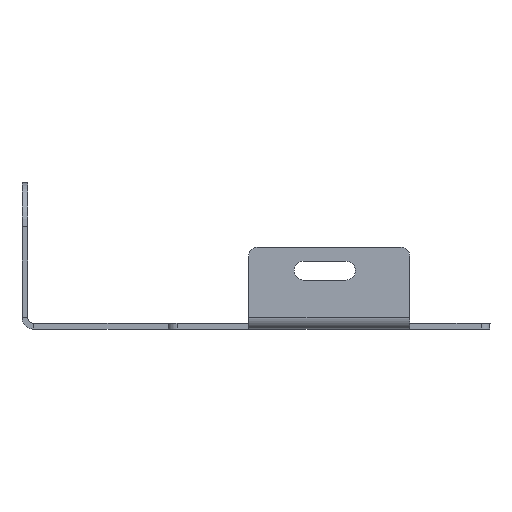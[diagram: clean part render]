
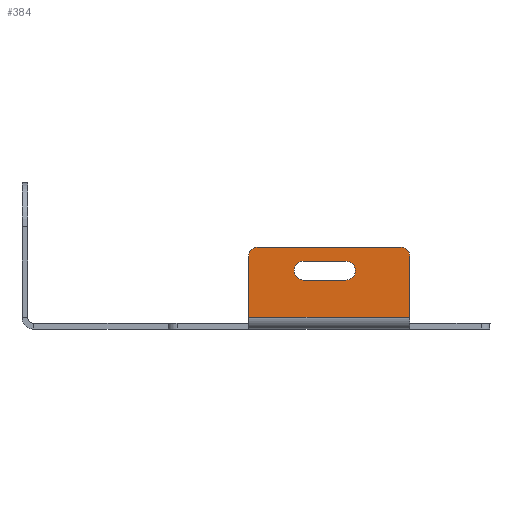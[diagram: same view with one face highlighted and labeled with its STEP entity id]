
A CAD part, left-side view. The second image highlights one B-rep face of the part: STEP entity #384.
In plain terms, the highlighted planar face has unit normal (-1, 0, 0).
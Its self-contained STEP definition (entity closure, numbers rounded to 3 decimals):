
#49 = DIRECTION ( 'NONE',  ( 0., 0., 1. ) ) ;
#64 = DIRECTION ( 'NONE',  ( 0., 1., 0. ) ) ;
#77 = ORIENTED_EDGE ( 'NONE', *, *, #1394, .F. ) ;
#79 = DIRECTION ( 'NONE',  ( 0., 1., 0. ) ) ;
#106 = VERTEX_POINT ( 'NONE', #1588 ) ;
#142 = CARTESIAN_POINT ( 'NONE',  ( -203.5, -5.75, 14.75 ) ) ;
#147 = ORIENTED_EDGE ( 'NONE', *, *, #1489, .F. ) ;
#155 = ORIENTED_EDGE ( 'NONE', *, *, #670, .F. ) ;
#176 = CARTESIAN_POINT ( 'NONE',  ( -203.5, -24.5, 26. ) ) ;
#178 = FACE_BOUND ( 'NONE', #3137, .T. ) ;
#199 = DIRECTION ( 'NONE',  ( -1., 0., 0. ) ) ;
#265 = VERTEX_POINT ( 'NONE', #1476 ) ;
#302 = AXIS2_PLACEMENT_3D ( 'NONE', #1499, #2497, #1770 ) ;
#321 = AXIS2_PLACEMENT_3D ( 'NONE', #2094, #577, #818 ) ;
#350 = CARTESIAN_POINT ( 'NONE',  ( -203.5, -27.5, 0. ) ) ;
#362 = EDGE_CURVE ( 'NONE', #1139, #2600, #3194, .T. ) ;
#370 = VERTEX_POINT ( 'NONE', #142 ) ;
#384 = ADVANCED_FACE ( 'NONE', ( #178, #2934 ), #3233, .T. ) ;
#389 = CARTESIAN_POINT ( 'NONE',  ( -203.5, 0., 2. ) ) ;
#515 = VECTOR ( 'NONE', #2334, 1000. ) ;
#518 = ORIENTED_EDGE ( 'NONE', *, *, #1687, .T. ) ;
#555 = LINE ( 'NONE', #1286, #2517 ) ;
#577 = DIRECTION ( 'NONE',  ( -1., 0., 0. ) ) ;
#670 = EDGE_CURVE ( 'NONE', #1365, #992, #1593, .T. ) ;
#797 = AXIS2_PLACEMENT_3D ( 'NONE', #1160, #1415, #2155 ) ;
#818 = DIRECTION ( 'NONE',  ( 0., 0., 1. ) ) ;
#831 = DIRECTION ( 'NONE',  ( 0., -1., 0. ) ) ;
#953 = VECTOR ( 'NONE', #831, 1000. ) ;
#965 = CARTESIAN_POINT ( 'NONE',  ( -203.5, -27.5, 2. ) ) ;
#992 = VERTEX_POINT ( 'NONE', #965 ) ;
#1049 = EDGE_CURVE ( 'NONE', #106, #992, #1564, .T. ) ;
#1050 = ORIENTED_EDGE ( 'NONE', *, *, #2736, .F. ) ;
#1112 = CIRCLE ( 'NONE', #3163, 3.25 ) ;
#1139 = VERTEX_POINT ( 'NONE', #2576 ) ;
#1159 = ORIENTED_EDGE ( 'NONE', *, *, #2363, .F. ) ;
#1160 = CARTESIAN_POINT ( 'NONE',  ( -203.5, 0., 0. ) ) ;
#1185 = DIRECTION ( 'NONE',  ( 0., 0., 1. ) ) ;
#1210 = VECTOR ( 'NONE', #64, 1000. ) ;
#1232 = EDGE_CURVE ( 'NONE', #1139, #1313, #2970, .T. ) ;
#1286 = CARTESIAN_POINT ( 'NONE',  ( -203.5, 27.5, 26. ) ) ;
#1300 = CARTESIAN_POINT ( 'NONE',  ( -203.5, -5.75, 14.75 ) ) ;
#1313 = VERTEX_POINT ( 'NONE', #176 ) ;
#1360 = ORIENTED_EDGE ( 'NONE', *, *, #1232, .F. ) ;
#1365 = VERTEX_POINT ( 'NONE', #2820 ) ;
#1382 = AXIS2_PLACEMENT_3D ( 'NONE', #2179, #2686, #3184 ) ;
#1388 = VERTEX_POINT ( 'NONE', #2013 ) ;
#1394 = EDGE_CURVE ( 'NONE', #106, #2600, #555, .T. ) ;
#1408 = ORIENTED_EDGE ( 'NONE', *, *, #362, .T. ) ;
#1415 = DIRECTION ( 'NONE',  ( -1., 0., 0. ) ) ;
#1476 = CARTESIAN_POINT ( 'NONE',  ( -203.5, 8.75, 14.75 ) ) ;
#1489 = EDGE_CURVE ( 'NONE', #2356, #1388, #2058, .T. ) ;
#1499 = CARTESIAN_POINT ( 'NONE',  ( -203.5, 24.5, 23. ) ) ;
#1564 = LINE ( 'NONE', #389, #953 ) ;
#1588 = CARTESIAN_POINT ( 'NONE',  ( -203.5, 27.5, 2. ) ) ;
#1593 = LINE ( 'NONE', #350, #515 ) ;
#1599 = CARTESIAN_POINT ( 'NONE',  ( -203.5, 27.5, 23. ) ) ;
#1687 = EDGE_CURVE ( 'NONE', #370, #265, #2806, .T. ) ;
#1710 = CARTESIAN_POINT ( 'NONE',  ( -203.5, -27.5, 26. ) ) ;
#1770 = DIRECTION ( 'NONE',  ( 0., 0., 1. ) ) ;
#1808 = CARTESIAN_POINT ( 'NONE',  ( -203.5, -5.75, 21.25 ) ) ;
#1831 = VECTOR ( 'NONE', #79, 1000. ) ;
#1859 = ORIENTED_EDGE ( 'NONE', *, *, #2047, .T. ) ;
#1887 = VECTOR ( 'NONE', #3230, 1000. ) ;
#1894 = EDGE_LOOP ( 'NONE', ( #1360, #1408, #77, #3053, #155, #1859 ) ) ;
#2013 = CARTESIAN_POINT ( 'NONE',  ( -203.5, 8.75, 21.25 ) ) ;
#2047 = EDGE_CURVE ( 'NONE', #1365, #1313, #3018, .T. ) ;
#2058 = LINE ( 'NONE', #1808, #1831 ) ;
#2094 = CARTESIAN_POINT ( 'NONE',  ( -203.5, -24.5, 23. ) ) ;
#2149 = CARTESIAN_POINT ( 'NONE',  ( -203.5, 8.75, 18. ) ) ;
#2155 = DIRECTION ( 'NONE',  ( 0., 0., 1. ) ) ;
#2179 = CARTESIAN_POINT ( 'NONE',  ( -203.5, -5.75, 18. ) ) ;
#2334 = DIRECTION ( 'NONE',  ( 0., 0., -1. ) ) ;
#2356 = VERTEX_POINT ( 'NONE', #3191 ) ;
#2363 = EDGE_CURVE ( 'NONE', #1388, #265, #1112, .T. ) ;
#2478 = CIRCLE ( 'NONE', #1382, 3.25 ) ;
#2497 = DIRECTION ( 'NONE',  ( -1., 0., 0. ) ) ;
#2517 = VECTOR ( 'NONE', #49, 1000. ) ;
#2576 = CARTESIAN_POINT ( 'NONE',  ( -203.5, 24.5, 26. ) ) ;
#2600 = VERTEX_POINT ( 'NONE', #1599 ) ;
#2686 = DIRECTION ( 'NONE',  ( -1., 0., 0. ) ) ;
#2736 = EDGE_CURVE ( 'NONE', #370, #2356, #2478, .T. ) ;
#2806 = LINE ( 'NONE', #1300, #1210 ) ;
#2820 = CARTESIAN_POINT ( 'NONE',  ( -203.5, -27.5, 23. ) ) ;
#2934 = FACE_OUTER_BOUND ( 'NONE', #1894, .T. ) ;
#2970 = LINE ( 'NONE', #1710, #1887 ) ;
#3018 = CIRCLE ( 'NONE', #321, 3. ) ;
#3053 = ORIENTED_EDGE ( 'NONE', *, *, #1049, .T. ) ;
#3137 = EDGE_LOOP ( 'NONE', ( #518, #1159, #147, #1050 ) ) ;
#3163 = AXIS2_PLACEMENT_3D ( 'NONE', #2149, #199, #1185 ) ;
#3184 = DIRECTION ( 'NONE',  ( 0., 0., 1. ) ) ;
#3191 = CARTESIAN_POINT ( 'NONE',  ( -203.5, -5.75, 21.25 ) ) ;
#3194 = CIRCLE ( 'NONE', #302, 3. ) ;
#3230 = DIRECTION ( 'NONE',  ( 0., -1., 0. ) ) ;
#3233 = PLANE ( 'NONE',  #797 ) ;
